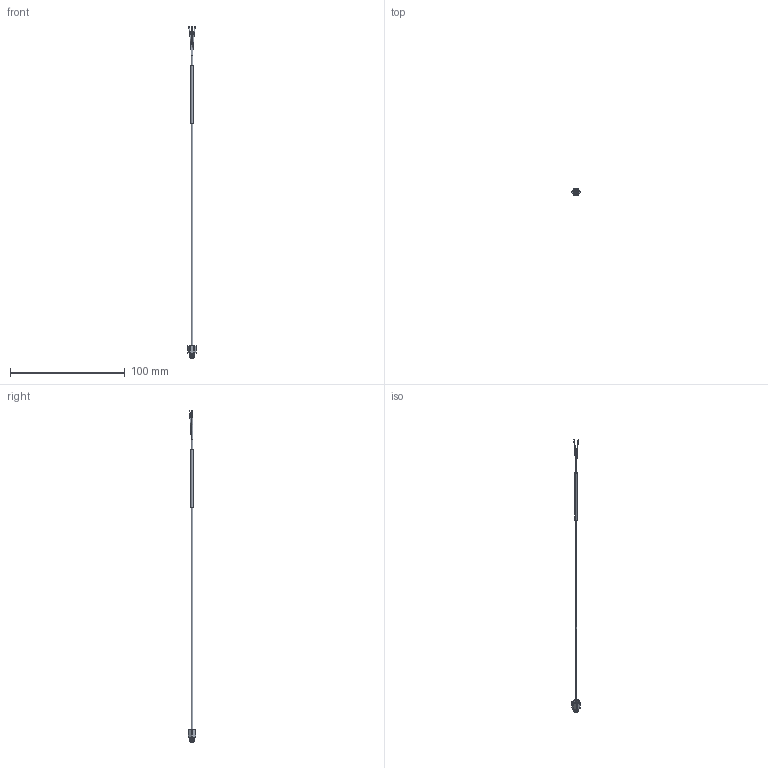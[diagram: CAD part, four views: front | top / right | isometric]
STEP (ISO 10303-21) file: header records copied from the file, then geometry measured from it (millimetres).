
FILE_DESCRIPTION(/* description */ (''),/* implementation_level */ '2;1');
FILE_NAME(/* name */ '8950-0003-XXX ASSEMBLY.stp',/* time_stamp */ '2022-12-19T11:19:45-05:00',/* author */ ('Justin'),/* organization */ (''),/* preprocessor_version */ 'ST-DEVELOPER v19.2',/* originating_system */ 'Autodesk Inventor 2023',/* authorisation */ '');
FILE_SCHEMA (('AUTOMOTIVE_DESIGN { 1 0 10303 214 3 1 1 }'));
Length unit declared in the file: inch
Products named in the file (5): 8950-0003-XXX ASSEMBLY; 8850-0001-XXX; 8150-0003; 8200-0023; 8750-0001
Assembly tree (4 placements, depth 2):
  8950-0003-XXX ASSEMBLY
    8850-0001-XXX
    8150-0003
    8200-0023
    8750-0001
Bounding box: 7.26 x 6.35 x 289.9 mm (x, y, z)
Volume: 688.7 mm3; surface area: 7692.6 mm2
Topology: 11 solids, 11 shells, 88 faces, 203 edges, 138 vertices
Faces by surface type: plane 37, cylinder 33, bspline 14, torus 2, cone 2
Full cylindrical faces by diameter (mm): 0.2 x2, 0.457 x6, 0.686 x2, 1.478 x1, 1.727 x2, 2.032 x1, 3.17 x2, 3.994 x3, 4.762 x1
Entity records: 3913 total; most frequent: CARTESIAN_POINT 1627, DIRECTION 439, ORIENTED_EDGE 404, EDGE_CURVE 202, AXIS2_PLACEMENT_3D 187, VERTEX_POINT 138, EDGE_LOOP 100, CIRCLE 98
